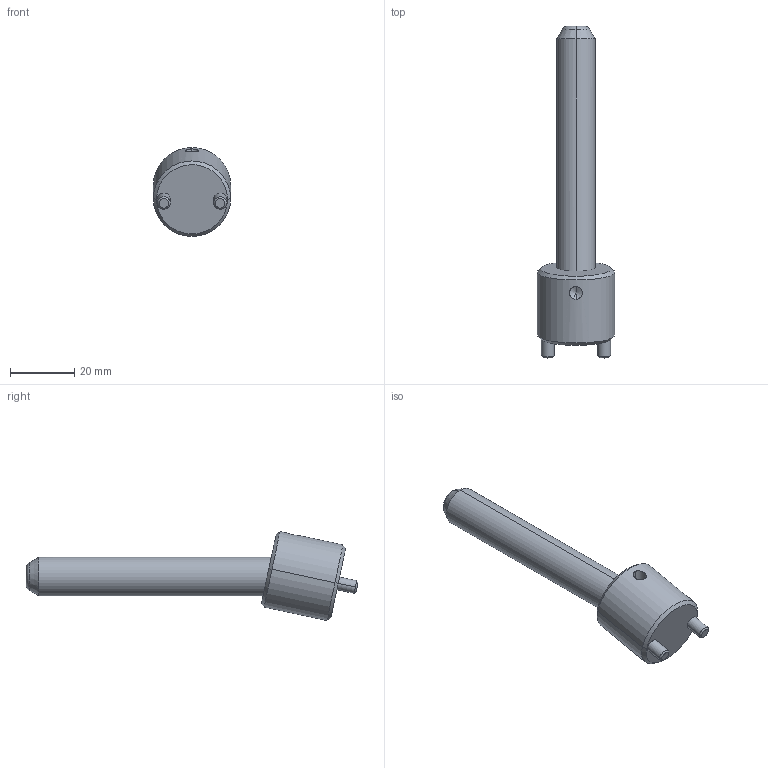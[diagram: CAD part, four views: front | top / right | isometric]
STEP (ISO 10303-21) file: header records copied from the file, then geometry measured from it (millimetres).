
FILE_DESCRIPTION(('CATIA V5 STEP Exchange'),'2;1');
FILE_NAME('C:\Users\Raffaele\Desktop\3D BOLEX\3D FILES CF BOLEX\19-INCLINED ASSEMBLY REF_CI\CI1212075.stp','2019-06-20T14:03:26+00:00',('none'),('none'),'CATIA Version 5 Release 20 GA (IN-10)','CATIA V5 STEP AP203','none');
FILE_SCHEMA(('CONFIG_CONTROL_DESIGN'));
Length unit declared in the file: millimetre
Products named in the file (1): CI1212075
Assembly tree (2 placements, depth 2):
  CI1212075
    #58
    #578
Bounding box: 24 x 103.22 x 27.63 mm (x, y, z)
Volume: 18193 mm3; surface area: 7027.2 mm2
Topology: 2 solids, 2 shells, 39 faces, 82 edges, 47 vertices
Faces by surface type: cone 14, cylinder 14, plane 7, torus 4
Entity records: 1467 total; most frequent: CARTESIAN_POINT 608, ORIENTED_EDGE 160, DIRECTION 145, EDGE_CURVE 80, AXIS2_PLACEMENT_3D 72, VERTEX_POINT 47, EDGE_LOOP 43, ADVANCED_FACE 39
